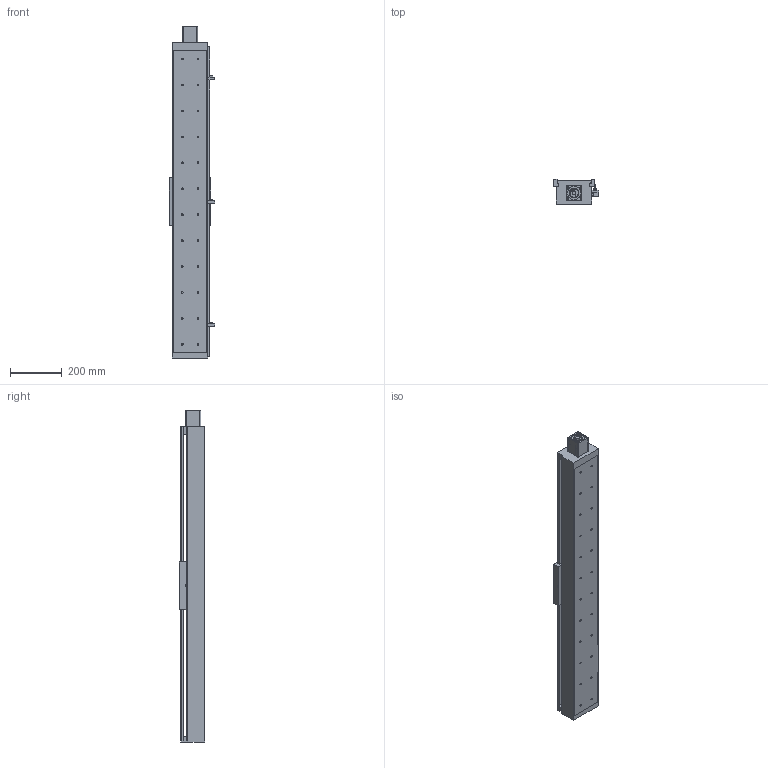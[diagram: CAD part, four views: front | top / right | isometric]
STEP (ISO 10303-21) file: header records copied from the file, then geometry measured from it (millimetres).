
FILE_DESCRIPTION((''),'2;1');
FILE_NAME('E:\libraries\UIA actuator library 2009\standard actuator\UIA136 ball screw 25\UIA136R15NDC-_ _ _-R25_ _, stp file 27Apr16\UIA136R15NDC-950-R25_ _-M60-P13-C10-S.stp','2016-04-28T17:04:01',('h029'),(''),'Autodesk Inventor 11','Autodesk Inventor 11','');
FILE_SCHEMA(('AUTOMOTIVE_DESIGN { 1 0 10303 214 1 1 1 1 }'));
Length unit declared in the file: millimetre
Products named in the file (10): UIA136R15NDC-950; UIA136R15NDC-body; motor mount F60; SOH-32C; SOH-32C-3; SOH-32C-1; SOH-32C-2; Carriage; Sensor Switch; sensor rail
Assembly tree (9 placements, depth 3):
  UIA136R15NDC-950
    UIA136R15NDC-body
    motor mount F60
    SOH-32C
      SOH-32C-3
      SOH-32C-1
      SOH-32C-2
    Carriage
    Sensor Switch
    sensor rail
Bounding box: 174.5 x 98 x 1280 mm (x, y, z)
Volume: 4762903.2 mm3; surface area: 1327527.2 mm2
Topology: 8 solids, 8 shells, 532 faces, 1391 edges, 910 vertices
Faces by surface type: plane 324, bspline 158, cylinder 46, cone 4
Full cylindrical faces by diameter (mm): 2.459 x2, 3.242 x2, 4.5 x2, 7 x4, 7.5 x2, 14 x3, 17 x1, 32 x3, 37 x1, 50.3 x1, 50.5 x1
Entity records: 17380 total; most frequent: CARTESIAN_POINT 5108, ORIENTED_EDGE 2360, DIRECTION 2314, EDGE_CURVE 1180, VERTEX_POINT 846, VECTOR 816, LINE 816, EDGE_LOOP 816
